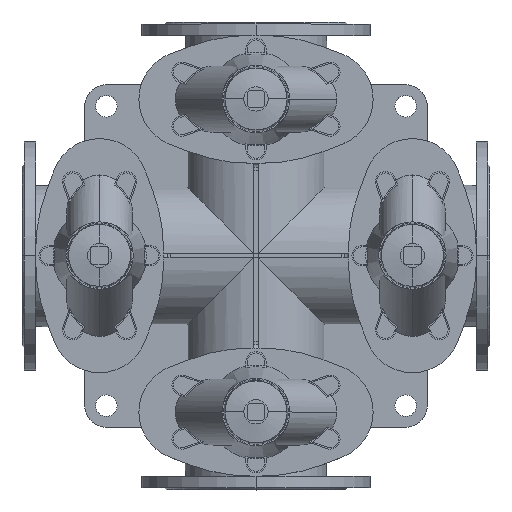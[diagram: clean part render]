
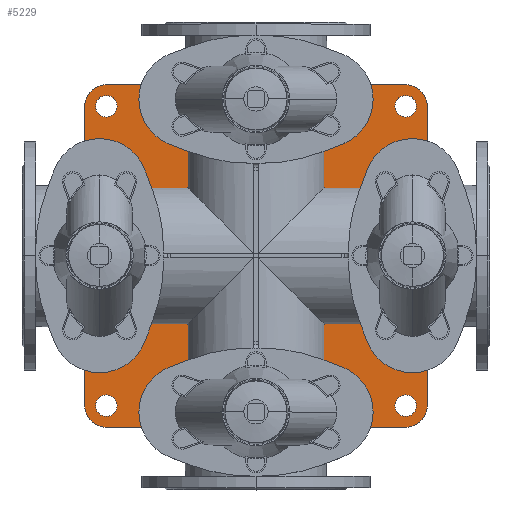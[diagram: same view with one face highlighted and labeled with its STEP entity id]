
A CAD part, top view. The second image highlights one B-rep face of the part: STEP entity #5229.
In plain terms, the highlighted planar face has unit normal (0, 0, 1).
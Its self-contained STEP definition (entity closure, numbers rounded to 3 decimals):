
#5229=ADVANCED_FACE('',(#10659,#10660,#10661,#10662,#10663),#10664,.F.);
#10659=FACE_BOUND('',#17899,.T.);
#10660=FACE_BOUND('',#17900,.T.);
#10661=FACE_BOUND('',#17901,.T.);
#10662=FACE_BOUND('',#17902,.T.);
#10663=FACE_OUTER_BOUND('',#17903,.T.);
#10664=PLANE('',#17904);
#17899=EDGE_LOOP('',(#27571,#27572));
#17900=EDGE_LOOP('',(#27573,#27574));
#17901=EDGE_LOOP('',(#27575,#27576));
#17902=EDGE_LOOP('',(#27577,#27578));
#17903=EDGE_LOOP('',(#27579,#27580,#27581,#27582,#27583,#27584,#27585,#27586));
#17904=AXIS2_PLACEMENT_3D('',#27587,#27588,#27589);
#27571=ORIENTED_EDGE('',*,*,#41137,.T.);
#27572=ORIENTED_EDGE('',*,*,#42053,.T.);
#27573=ORIENTED_EDGE('',*,*,#42054,.T.);
#27574=ORIENTED_EDGE('',*,*,#42055,.T.);
#27575=ORIENTED_EDGE('',*,*,#42056,.T.);
#27576=ORIENTED_EDGE('',*,*,#40981,.T.);
#27577=ORIENTED_EDGE('',*,*,#41968,.T.);
#27578=ORIENTED_EDGE('',*,*,#42057,.T.);
#27579=ORIENTED_EDGE('',*,*,#42058,.F.);
#27580=ORIENTED_EDGE('',*,*,#40899,.F.);
#27581=ORIENTED_EDGE('',*,*,#41683,.F.);
#27582=ORIENTED_EDGE('',*,*,#42059,.F.);
#27583=ORIENTED_EDGE('',*,*,#42060,.F.);
#27584=ORIENTED_EDGE('',*,*,#42061,.F.);
#27585=ORIENTED_EDGE('',*,*,#41347,.F.);
#27586=ORIENTED_EDGE('',*,*,#42062,.F.);
#27587=CARTESIAN_POINT('',(347.5,0.,27.0));
#27588=DIRECTION('',(0.0,0.0,-1.0));
#27589=DIRECTION('',(-1.0,0.0,0.0));
#40899=EDGE_CURVE('',#48791,#48792,#48793,.T.);
#40981=EDGE_CURVE('',#48926,#48923,#48927,.T.);
#41137=EDGE_CURVE('',#49175,#49180,#49182,.T.);
#41347=EDGE_CURVE('',#49525,#49526,#49527,.T.);
#41683=EDGE_CURVE('',#50052,#48791,#50053,.T.);
#41968=EDGE_CURVE('',#50477,#50482,#50484,.T.);
#42053=EDGE_CURVE('',#49180,#49175,#50610,.T.);
#42054=EDGE_CURVE('',#50611,#50612,#50613,.T.);
#42055=EDGE_CURVE('',#50612,#50611,#50614,.T.);
#42056=EDGE_CURVE('',#48923,#48926,#50615,.T.);
#42057=EDGE_CURVE('',#50482,#50477,#50616,.T.);
#42058=EDGE_CURVE('',#48792,#50617,#50618,.T.);
#42059=EDGE_CURVE('',#50619,#50052,#50620,.T.);
#42060=EDGE_CURVE('',#50621,#50619,#50622,.T.);
#42061=EDGE_CURVE('',#49526,#50621,#50623,.T.);
#42062=EDGE_CURVE('',#50617,#49525,#50624,.T.);
#48791=VERTEX_POINT('',#59210);
#48792=VERTEX_POINT('',#59211);
#48793=CIRCLE('',#59212,32.0);
#48923=VERTEX_POINT('',#59378);
#48926=VERTEX_POINT('',#59382);
#48927=CIRCLE('',#59383,16.0);
#49175=VERTEX_POINT('',#59708);
#49180=VERTEX_POINT('',#59714);
#49182=CIRCLE('',#59717,16.0);
#49525=VERTEX_POINT('',#60154);
#49526=VERTEX_POINT('',#60155);
#49527=LINE('',#60156,#60157);
#50052=VERTEX_POINT('',#60830);
#50053=LINE('',#60831,#60832);
#50477=VERTEX_POINT('',#61388);
#50482=VERTEX_POINT('',#61394);
#50484=CIRCLE('',#61397,16.0);
#50610=CIRCLE('',#61550,16.0);
#50611=VERTEX_POINT('',#61551);
#50612=VERTEX_POINT('',#61552);
#50613=CIRCLE('',#61553,16.0);
#50614=CIRCLE('',#61554,16.0);
#50615=CIRCLE('',#61555,16.0);
#50616=CIRCLE('',#61556,16.0);
#50617=VERTEX_POINT('',#61557);
#50618=LINE('',#61558,#61559);
#50619=VERTEX_POINT('',#61560);
#50620=CIRCLE('',#61561,32.0);
#50621=VERTEX_POINT('',#61562);
#50622=LINE('',#61563,#61564);
#50623=CIRCLE('',#61565,32.0);
#50624=CIRCLE('',#61566,32.0);
#59210=CARTESIAN_POINT('',(602.0,-222.5,27.0));
#59211=CARTESIAN_POINT('',(570.0,-254.5,27.0));
#59212=AXIS2_PLACEMENT_3D('',#69855,#69856,#69857);
#59378=CARTESIAN_POINT('',(586.0,-222.5,27.0));
#59382=CARTESIAN_POINT('',(554.0,-222.5,27.0));
#59383=AXIS2_PLACEMENT_3D('',#69970,#69971,#69972);
#59708=CARTESIAN_POINT('',(141.0,222.5,27.0));
#59714=CARTESIAN_POINT('',(109.0,222.5,27.0));
#59717=AXIS2_PLACEMENT_3D('',#70175,#70176,#70177);
#60154=CARTESIAN_POINT('',(93.0,-222.5,27.0));
#60155=CARTESIAN_POINT('',(93.0,222.5,27.0));
#60156=CARTESIAN_POINT('',(93.0,-222.5,27.0));
#60157=VECTOR('',#70482,1.0);
#60830=CARTESIAN_POINT('',(602.0,222.5,27.0));
#60831=CARTESIAN_POINT('',(602.0,222.5,27.0));
#60832=VECTOR('',#70937,1.0);
#61388=CARTESIAN_POINT('',(586.0,222.5,27.0));
#61394=CARTESIAN_POINT('',(554.0,222.5,27.0));
#61397=AXIS2_PLACEMENT_3D('',#71303,#71304,#71305);
#61550=AXIS2_PLACEMENT_3D('',#71438,#71439,#71440);
#61551=CARTESIAN_POINT('',(141.0,-222.5,27.0));
#61552=CARTESIAN_POINT('',(109.0,-222.5,27.0));
#61553=AXIS2_PLACEMENT_3D('',#71441,#71442,#71443);
#61554=AXIS2_PLACEMENT_3D('',#71444,#71445,#71446);
#61555=AXIS2_PLACEMENT_3D('',#71447,#71448,#71449);
#61556=AXIS2_PLACEMENT_3D('',#71450,#71451,#71452);
#61557=CARTESIAN_POINT('',(125.0,-254.5,27.0));
#61558=CARTESIAN_POINT('',(570.0,-254.5,27.0));
#61559=VECTOR('',#71453,1.0);
#61560=CARTESIAN_POINT('',(570.0,254.5,27.0));
#61561=AXIS2_PLACEMENT_3D('',#71454,#71455,#71456);
#61562=CARTESIAN_POINT('',(125.0,254.5,27.0));
#61563=CARTESIAN_POINT('',(125.0,254.5,27.0));
#61564=VECTOR('',#71457,1.0);
#61565=AXIS2_PLACEMENT_3D('',#71458,#71459,#71460);
#61566=AXIS2_PLACEMENT_3D('',#71461,#71462,#71463);
#69855=CARTESIAN_POINT('',(570.0,-222.5,27.0));
#69856=DIRECTION('',(0.0,0.0,-1.0));
#69857=DIRECTION('',(-1.0,0.0,0.0));
#69970=CARTESIAN_POINT('',(570.0,-222.5,27.0));
#69971=DIRECTION('',(0.0,0.0,-1.0));
#69972=DIRECTION('',(1.0,0.0,0.0));
#70175=CARTESIAN_POINT('',(125.0,222.5,27.0));
#70176=DIRECTION('',(0.0,0.0,-1.0));
#70177=DIRECTION('',(1.0,0.0,0.0));
#70482=DIRECTION('',(0.0,1.0,0.0));
#70937=DIRECTION('',(0.0,-1.0,0.0));
#71303=CARTESIAN_POINT('',(570.0,222.5,27.0));
#71304=DIRECTION('',(0.0,0.0,-1.0));
#71305=DIRECTION('',(1.0,0.0,0.0));
#71438=CARTESIAN_POINT('',(125.0,222.5,27.0));
#71439=DIRECTION('',(0.0,0.0,-1.0));
#71440=DIRECTION('',(1.0,0.0,0.0));
#71441=CARTESIAN_POINT('',(125.0,-222.5,27.0));
#71442=DIRECTION('',(0.0,0.0,-1.0));
#71443=DIRECTION('',(1.0,0.0,0.0));
#71444=CARTESIAN_POINT('',(125.0,-222.5,27.0));
#71445=DIRECTION('',(0.0,0.0,-1.0));
#71446=DIRECTION('',(1.0,0.0,0.0));
#71447=CARTESIAN_POINT('',(570.0,-222.5,27.0));
#71448=DIRECTION('',(0.0,0.0,-1.0));
#71449=DIRECTION('',(1.0,0.0,0.0));
#71450=CARTESIAN_POINT('',(570.0,222.5,27.0));
#71451=DIRECTION('',(0.0,0.0,-1.0));
#71452=DIRECTION('',(1.0,0.0,0.0));
#71453=DIRECTION('',(-1.0,0.0,0.0));
#71454=CARTESIAN_POINT('',(570.0,222.5,27.0));
#71455=DIRECTION('',(0.0,0.0,-1.0));
#71456=DIRECTION('',(-1.0,0.0,0.0));
#71457=DIRECTION('',(1.0,0.0,0.0));
#71458=CARTESIAN_POINT('',(125.0,222.5,27.0));
#71459=DIRECTION('',(0.0,0.0,-1.0));
#71460=DIRECTION('',(-1.0,0.0,0.0));
#71461=CARTESIAN_POINT('',(125.0,-222.5,27.0));
#71462=DIRECTION('',(0.0,0.0,-1.0));
#71463=DIRECTION('',(-1.0,0.0,0.0));
